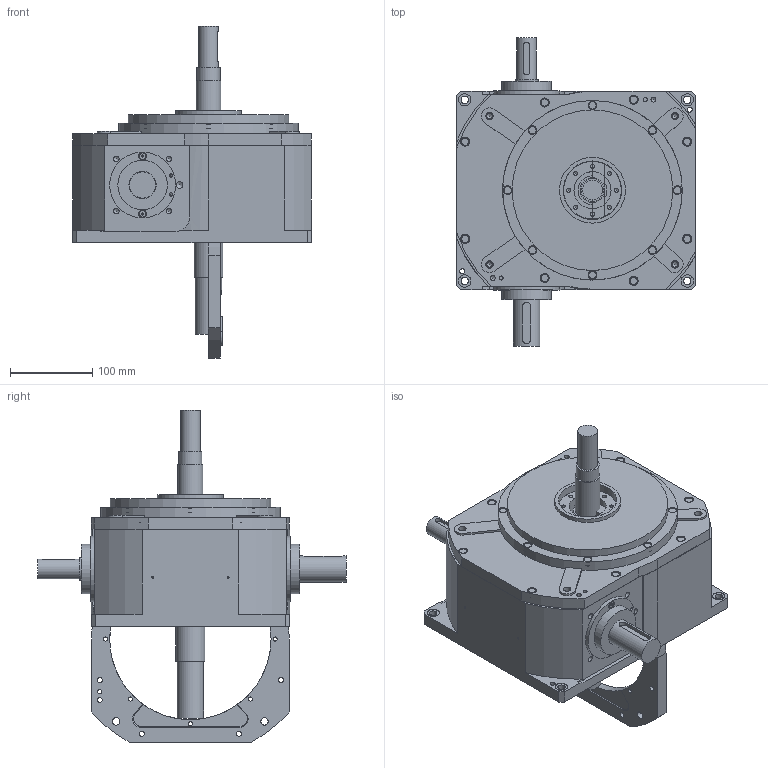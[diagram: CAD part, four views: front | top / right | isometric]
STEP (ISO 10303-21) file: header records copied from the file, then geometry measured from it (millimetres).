
FILE_DESCRIPTION( ( 'Unknown' ), '1' );
FILE_NAME( 'S:/TAVOLE/T25/Schemi/T25.stp', 'Unknown', ( 'Unknown' ), ( 'Unknown' ), 'XStep 1.0', 'Unknown', ' ' );
FILE_SCHEMA( ( 'CONFIG_CONTROL_DESIGN' ) );
Length unit declared in the file: millimetre
Products named in the file (9): Assem1; 1; 2; 3; 4; 5; 6; 7; 8
Bounding box: 290 x 374 x 403 mm (x, y, z)
Volume: 10061329.4 mm3; surface area: 1406636.5 mm2
Topology: 35 solids, 35 shells, 1175 faces, 2882 edges, 1895 vertices
Faces by surface type: cylinder 535, plane 428, cone 153, torus 51, bspline 6, sphere 2
Full cylindrical faces by diameter (mm): 2.5 x4, 3.242 x8, 3.813 x5, 4 x5, 4.134 x6, 4.5 x6, 4.917 x52, 6 x54, 6.25 x16, 6.5 x16, 6.647 x24, 8 x9, 8.376 x2, 9 x16, 10 x19, 10.5 x16, 11 x16, 12 x2, 15 x10, 24 x2, 28 x2, 30 x8, 32 x4, 33 x3, 35 x8, 40 x2, 45 x4, 45.5 x2, 47 x3, 52 x3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
Entity records: 15140 total; most frequent: CARTESIAN_POINT 3883, DIRECTION 2354, ORIENTED_EDGE 1818, AXIS2_PLACEMENT_3D 993, EDGE_CURVE 909, EDGE_LOOP 835, VERTEX_POINT 741, FACE_OUTER_BOUND 633
